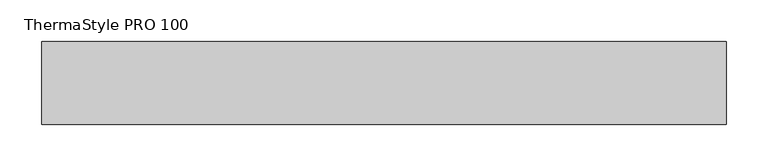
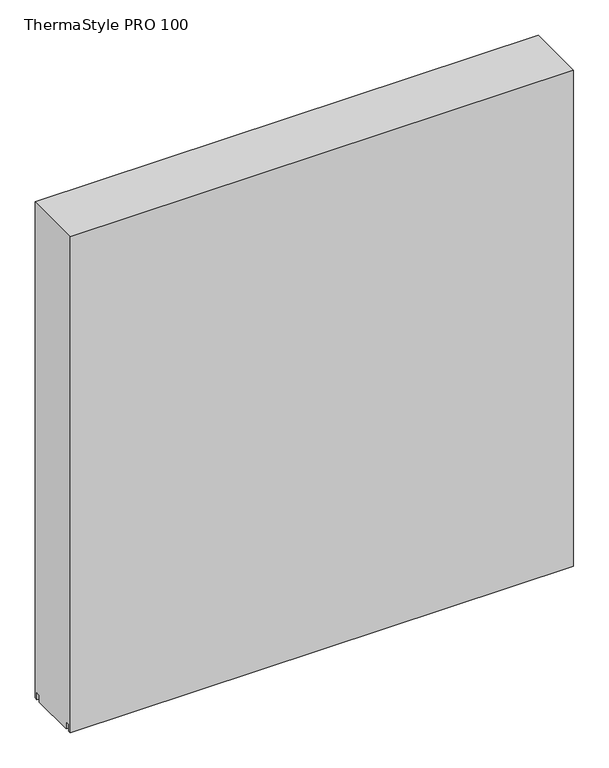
"""IFC4 building model written with IfcOpenShell, lengths in millimetres: plate geometry, Europanels_ThermaStyle PRO_Hz : ThermaStyle PRO 100."""

from ifc_helpers import new_model, si_unit, frame, origin, place, context, project, spatial, polyline, outline, extrude, source, transform, mapped, element, save


def thermastyle_pro_100_ea0365a7(model_context):
    return source(origin(), model_context, "Body", "SweptSolid", [
        extrude(outline(polyline([(50.0, 860.0), (50.0, 1.0), (45.0, 1.0), (45.0, 12.9552971), (37.8855682, 12.9552971), (37.8855682, 1.0), (-37.8855682, 1.0), (-37.8855682, 12.9552971), (-45.0, 12.9552971), (-45.0, 1.0), (-50.0, 1.0), (-50.0, 860.0), (50.0, 860.0)])), frame((-412.5, 0.0, 0.0), z_axis=(1.0, 0.0, 0.0), x_axis=(0.0, 1.0, 0.0)), (0.0, 0.0, 1.0), 825.0),
    ])


if __name__ == "__main__":
    model = new_model("IFC4")
    model_context = context("Model", 3, world=origin())
    ifc_project = project(units=[si_unit("LENGTHUNIT", "METRE", prefix="MILLI")], contexts=[model_context])
    site = spatial("IfcSite", under=ifc_project)
    building = spatial("IfcBuilding", under=site)
    placement = place(None, origin())
    thermastyle_pro_100_shape = thermastyle_pro_100_ea0365a7(model_context)
    element("IfcPlate", 1, ObjectType="Europanels_ThermaStyle PRO_Hz : ThermaStyle PRO 100", at=placement, inside=building, context=model_context, shape_type="MappedRepresentation", body=[
        mapped(thermastyle_pro_100_shape, transform((0.0, 0.0, 0.0), x_axis=(1.0, 0.0, 0.0), y_axis=(0.0, 1.0, 0.0), z_axis=(0.0, 0.0, 1.0))),
    ])
    save(model, "model.ifc")
